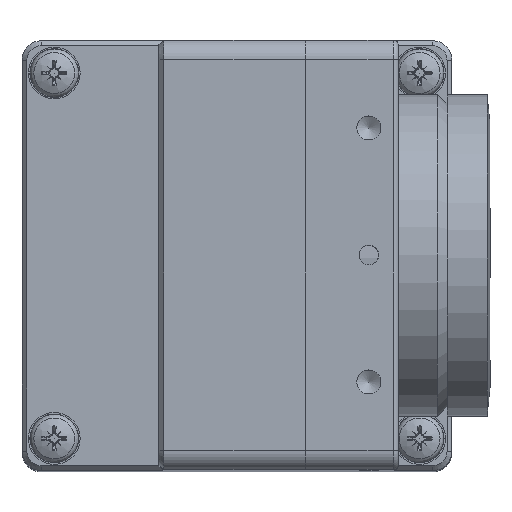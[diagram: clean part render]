
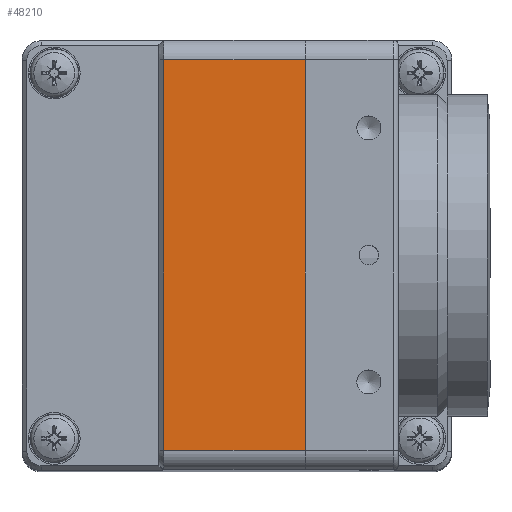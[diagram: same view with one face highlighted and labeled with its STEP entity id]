
A CAD part, top view. The second image highlights one B-rep face of the part: STEP entity #48210.
In plain terms, the highlighted planar face has unit normal (0, 0, 1) as drawn and (0, -1, 0) by its records, which use the part's own axes.
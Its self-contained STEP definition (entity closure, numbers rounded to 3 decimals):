
#46285=CARTESIAN_POINT('',(-20.,-29.5,-14.));
#46286=VERTEX_POINT('',#46285);
#46349=CARTESIAN_POINT('',(20.,-29.5,-14.));
#46350=VERTEX_POINT('',#46349);
#46357=CARTESIAN_POINT('',(20.,-29.5,-14.));
#46358=DIRECTION('',(-1.0,0.0,0.0));
#46359=VECTOR('',#46358,40.);
#46360=LINE('',#46357,#46359);
#46361=EDGE_CURVE('',#46350,#46286,#46360,.T.);
#48169=CARTESIAN_POINT('',(20.,-29.5,0.5));
#48170=VERTEX_POINT('',#48169);
#48178=CARTESIAN_POINT('',(20.,-29.5,0.5));
#48179=DIRECTION('',(0.0,0.0,-1.0));
#48180=VECTOR('',#48179,14.5);
#48181=LINE('',#48178,#48180);
#48182=EDGE_CURVE('',#48170,#46350,#48181,.T.);
#48187=CARTESIAN_POINT('',(22.,-29.5,-14.5));
#48188=DIRECTION('',(0.0,-1.0,0.0));
#48189=DIRECTION('',(0.0,0.0,-1.0));
#48190=AXIS2_PLACEMENT_3D('',#48187,#48188,#48189);
#48191=PLANE('',#48190);
#48192=ORIENTED_EDGE('',*,*,#46361,.F.);
#48193=ORIENTED_EDGE('',*,*,#48182,.F.);
#48194=CARTESIAN_POINT('',(-20.,-29.5,0.5));
#48195=VERTEX_POINT('',#48194);
#48196=CARTESIAN_POINT('',(20.,-29.5,0.5));
#48197=DIRECTION('',(-1.0,0.0,0.0));
#48198=VECTOR('',#48197,40.);
#48199=LINE('',#48196,#48198);
#48200=EDGE_CURVE('',#48170,#48195,#48199,.T.);
#48201=ORIENTED_EDGE('',*,*,#48200,.T.);
#48202=CARTESIAN_POINT('',(-20.,-29.5,-14.));
#48203=DIRECTION('',(0.0,0.0,1.0));
#48204=VECTOR('',#48203,14.5);
#48205=LINE('',#48202,#48204);
#48206=EDGE_CURVE('',#46286,#48195,#48205,.T.);
#48207=ORIENTED_EDGE('',*,*,#48206,.F.);
#48208=EDGE_LOOP('',(#48192,#48193,#48201,#48207));
#48209=FACE_OUTER_BOUND('',#48208,.T.);
#48210=ADVANCED_FACE('',(#48209),#48191,.T.);
